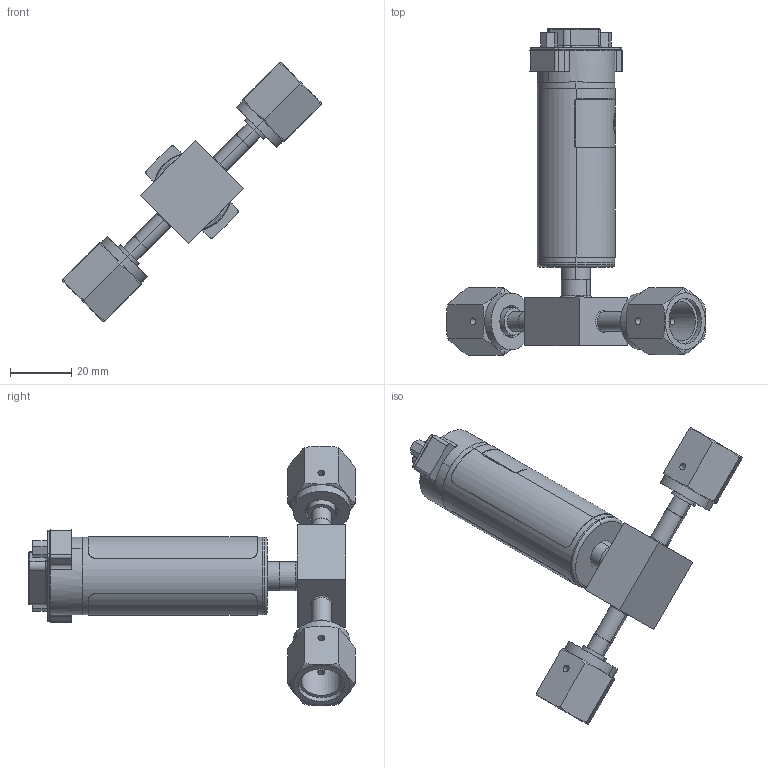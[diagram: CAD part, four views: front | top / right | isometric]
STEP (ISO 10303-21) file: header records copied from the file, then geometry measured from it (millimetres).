
FILE_DESCRIPTION (( 'STEP AP214' ), '1' );
FILE_NAME ('GSF-XXXXXX-D-XXX-SF.STEP', '2025-06-18T18:10:39', ( '' ), ( '' ), 'SwSTEP 2.0', 'SolidWorks 2023', '' );
FILE_SCHEMA (( 'AUTOMOTIVE_DESIGN' ));
Length unit declared in the file: inch
Products named in the file (6): 0136103_318Z136; GS D; ME131190; 333125_A333125001; GSx Body_Integrated Connector; GSF-XXXXXX-D-XXX-SF
Assembly tree (7 placements, depth 2):
  GSF-XXXXXX-D-XXX-SF
    GSx Body_Integrated Connector
    GS D
    333125_A333125001
    0136103_318Z136  x2
    ME131190  x2
Bounding box: 84.75 x 106.55 x 84.75 mm (x, y, z)
Volume: 30770.5 mm3; surface area: 25017.5 mm2
Topology: 10 solids, 12 shells, 495 faces, 1199 edges, 739 vertices
Faces by surface type: cylinder 185, plane 134, torus 56, cone 52, bspline 38, sphere 30
Entity records: 16110 total; most frequent: CARTESIAN_POINT 6107, DIRECTION 2102, ORIENTED_EDGE 1978, EDGE_CURVE 989, AXIS2_PLACEMENT_3D 868, VERTEX_POINT 621, EDGE_LOOP 492, CIRCLE 468
